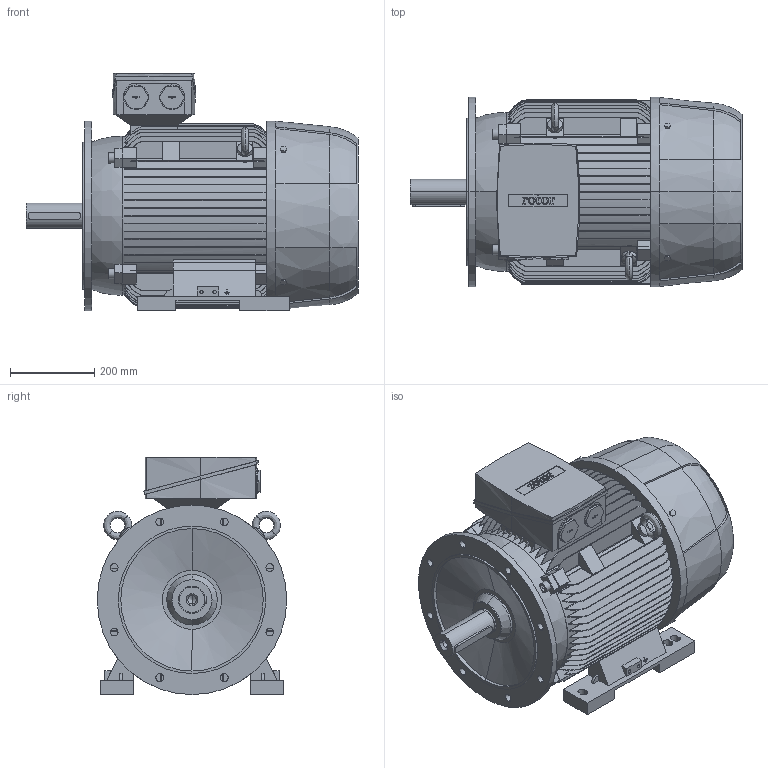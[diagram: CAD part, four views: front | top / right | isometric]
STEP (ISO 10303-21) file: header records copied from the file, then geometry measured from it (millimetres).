
FILE_DESCRIPTION (( 'STEP AP203' ), '1' );
FILE_NAME ('6RN225S08E20 IM2041.STEP', '2017-01-04T10:15:16', ( 'rotor' ), ( 'Hewlett-Packard Company' ), 'SwSTEP 2.0', 'SolidWorks 2015', '' );
FILE_SCHEMA (( 'CONFIG_CONTROL_DESIGN' ));
Length unit declared in the file: millimetre
Products named in the file (1): 6RN225S08E20 IM2041
Bounding box: 788 x 450 x 563 mm (x, y, z)
Volume: 87903605.6 mm3; surface area: 2889202.2 mm2
Topology: 1 solids, 1 shells, 1025 faces, 2899 edges, 1915 vertices
Faces by surface type: plane 595, cylinder 217, bspline 194, cone 19
Entity records: 42557 total; most frequent: CARTESIAN_POINT 17475, ORIENTED_EDGE 5794, DIRECTION 4384, EDGE_CURVE 2897, VERTEX_POINT 1915, VECTOR 1678, LINE 1678, AXIS2_PLACEMENT_3D 1353
